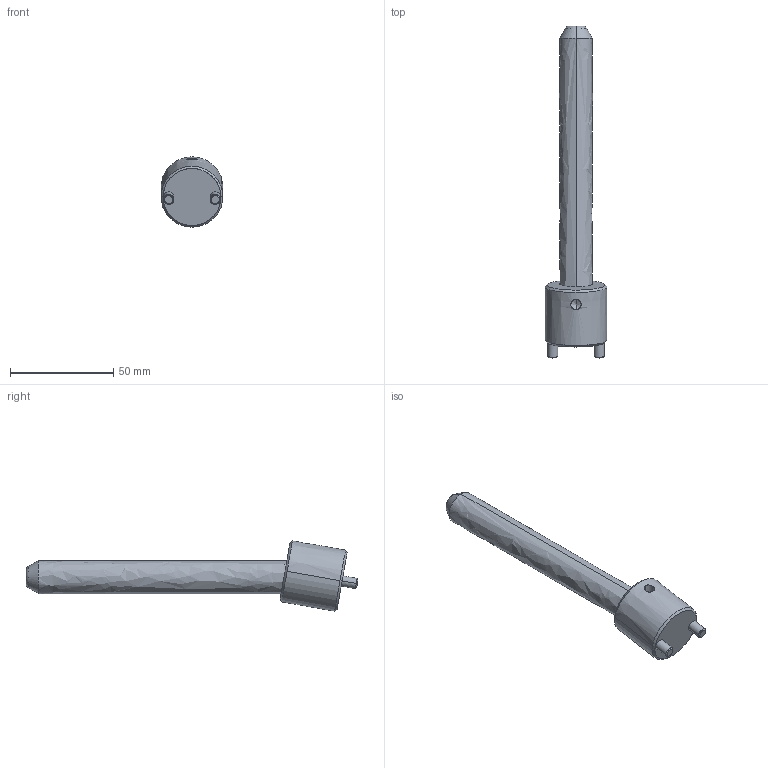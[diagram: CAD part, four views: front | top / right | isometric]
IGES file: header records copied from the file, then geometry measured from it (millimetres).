
Start section: START RECORD GO HERE.
Global section: file name: CI1016125.igs; native system: DASSAULT SYSTEMES CATIA V5 R20 - www.3ds.com; preprocessor: CATIA Version 5 Release 20 ; author: r.borello; organization: CFTORINO; date: 20190621.155350; units: millimetre
Bounding box: 30 x 160.83 x 34.06 mm (x, y, z)
Surface area: 13232.2 mm2 (no closed solid volume)
Topology: 0 solids, 0 shells, 39 faces, 162 edges, 160 vertices
Faces by surface type: revolution 32, plane 7
